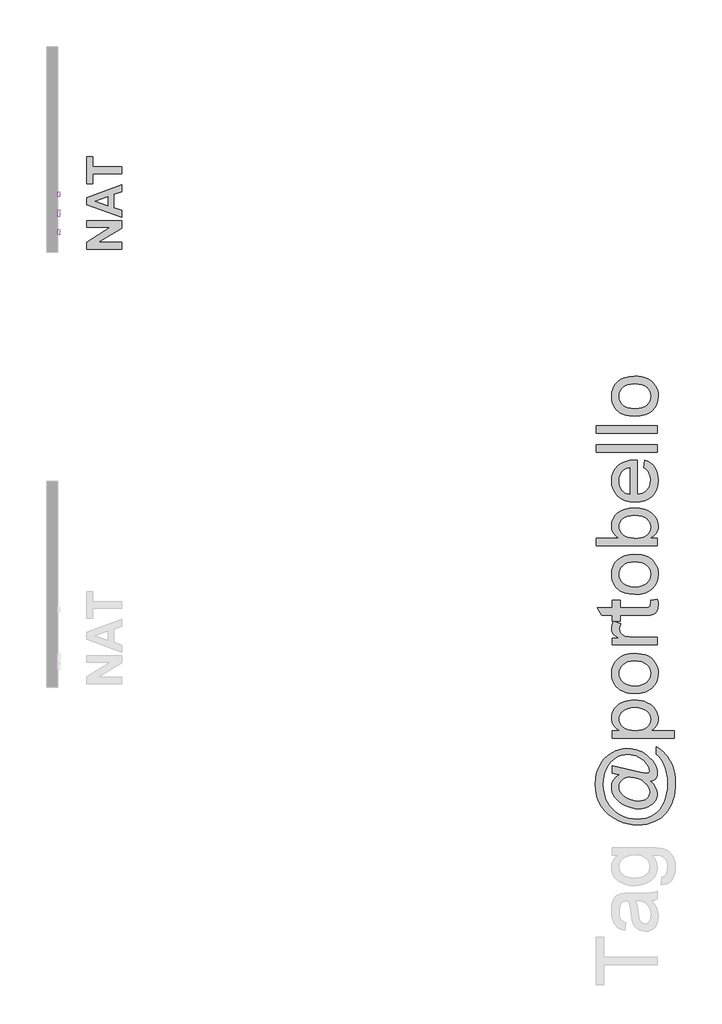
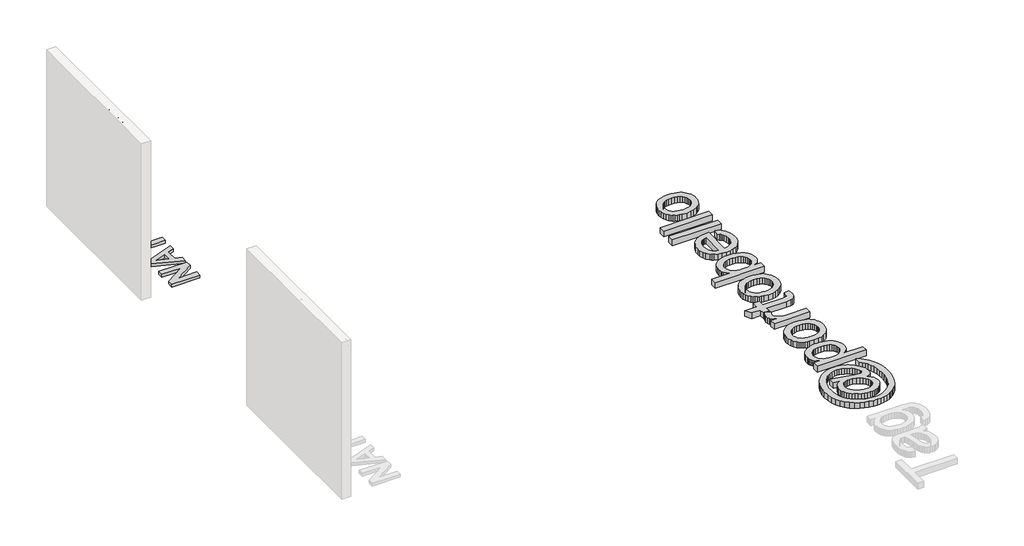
# One storey, part 3 of 9: 5 proxies.
"""IFC4 building model written with IfcOpenShell, lengths in millimetres."""

from ifc_helpers import new_model, si_unit, frame, origin, origin_with_axes, place, context, project, spatial, polyline, outline, extrude, element, save

model = new_model("IFC4")

# Units and contexts
model_context = context("Model", 3, world=origin())
ifc_project = project(units=[si_unit("LENGTHUNIT", "METRE", prefix="MILLI")], contexts=[model_context])

# Site, building, storey
site = spatial("IfcSite", under=ifc_project)
building = spatial("IfcBuilding", under=site)
storey = spatial("IfcBuildingStorey", under=building, Name="PORTOBELLO - SHOWROOM", Elevation=0.0)

# Proxies
placement = place(None, origin())
element("IfcBuildingElementProxy", 1, Name="10mm Arial", ObjectType="10mm Arial", at=placement, inside=storey, context=model_context, shape_type="SweptSolid", body=[
    extrude(outline(polyline([(-1934.9777985, 2518.4745677), (-1934.9777985, 2618.9308778), (-1922.4207597, 2618.9308778), (-1922.4207597, 2531.0316064), (-1872.1926046, 2531.0316064), (-1872.1926046, 2518.4745677), (-1934.9777985, 2518.4745677)])), frame((-13466.0063329, 0.0, 0.0), z_axis=(1.0, 0.0, 0.0), x_axis=(0.0, 1.0, 0.0)), (0.0, 0.0, 1.0), 20.0),
    extrude(outline(polyline([(-13446.0063329, -1847.0785271), (-13446.0063329, -1859.6355659), (-13466.0063329, -1859.6355659), (-13466.0063329, -1847.0785271), (-13446.0063329, -1847.0785271)])), frame((0.0, 0.0, 2518.4745677), z_axis=(0.0, 0.0, 1.0), x_axis=(1.0, 0.0, 0.0)), (0.0, 0.0, 1.0), 73.7726028),
    extrude(outline(polyline([(-13446.0063329, -1847.0785271), (-13446.0063329, -1859.6355659), (-13466.0063329, -1859.6355659), (-13466.0063329, -1847.0785271), (-13446.0063329, -1847.0785271)])), frame((0.0, 0.0, 2606.373839), z_axis=(0.0, 0.0, 1.0), x_axis=(1.0, 0.0, 0.0)), (0.0, 0.0, 1.0), 12.5570388),
    extrude(outline(polyline([(-1828.2429689, 2518.4745677), (-1828.2429689, 2592.2471704), (-1815.6859302, 2592.2471704), (-1815.6859302, 2581.9464746), (-1806.0842101, 2590.8492188), (-1792.9753483, 2593.8168003), (-1781.1172854, 2591.4255673), (-1773.0238815, 2585.1470479), (-1769.2592224, 2575.9132098), (-1768.5970348, 2563.773104), (-1768.5970348, 2518.4745677), (-1781.1540736, 2518.4745677), (-1781.1540736, 2562.0808468), (-1782.6010761, 2573.1908831), (-1787.7146358, 2579.0647323), (-1796.3353372, 2581.2597615), (-1809.9592338, 2576.3301428), (-1814.2542561, 2569.1871007), (-1815.6859302, 2557.6172119), (-1815.6859302, 2518.4745677), (-1828.2429689, 2518.4745677)])), frame((-13466.0063329, 0.0, 0.0), z_axis=(1.0, 0.0, 0.0), x_axis=(0.0, 1.0, 0.0)), (0.0, 0.0, 1.0), 20.0),
    extrude(outline(polyline([(-1699.6804744, 2540.4493855), (-1687.3686903, 2538.8797557), (-1691.804734, 2529.602998), (-1698.8833967, 2522.6684224), (-1708.4452629, 2518.345809), (-1720.330917, 2516.9049378), (-1735.0645909, 2519.391207), (-1746.4014878, 2526.8500144), (-1753.630369, 2538.7969822), (-1756.039996, 2554.7477324), (-1753.6058435, 2571.2349771), (-1746.3033859, 2583.5651553), (-1735.1197732, 2591.253889), (-1721.0421556, 2593.8168003), (-1707.4029306, 2591.2600204), (-1696.5044265, 2583.5896808), (-1689.3583187, 2571.2840281), (-1686.9762828, 2554.8213088), (-1687.0498592, 2551.4367944), (-1743.4829573, 2551.4367944), (-1741.3093878, 2542.0374095), (-1736.2602074, 2535.1273593), (-1728.9730782, 2530.8783223), (-1720.0856624, 2529.4619766), (-1707.7738783, 2532.0862015), (-1699.6804744, 2540.4493855)]), holes=[polyline([(-1743.4829573, 2563.9938332), (-1699.5333216, 2563.9938332), (-1704.5610422, 2575.3736496), (-1711.8818939, 2579.7882335), (-1721.0912065, 2581.2597615), (-1736.554513, 2576.5631347), (-1741.4197524, 2571.0724959), (-1743.4829573, 2563.9938332)])]), frame((-13466.0063329, 0.0, 0.0), z_axis=(1.0, 0.0, 0.0), x_axis=(0.0, 1.0, 0.0)), (0.0, 0.0, 1.0), 20.0),
    extrude(outline(polyline([(-1674.419244, 2518.4745677), (-1674.419244, 2592.2471704), (-1661.8622053, 2592.2471704), (-1661.8622053, 2581.9464746), (-1652.2604852, 2590.8492188), (-1639.1516234, 2593.8168003), (-1627.2935605, 2591.4255673), (-1619.2001566, 2585.1470479), (-1615.4354975, 2575.9132098), (-1614.7733099, 2563.773104), (-1614.7733099, 2518.4745677), (-1627.3303487, 2518.4745677), (-1627.3303487, 2562.0808468), (-1628.7773512, 2573.1908831), (-1633.8909109, 2579.0647323), (-1642.5116123, 2581.2597615), (-1656.1355089, 2576.3301428), (-1660.4305312, 2569.1871007), (-1661.8622053, 2557.6172119), (-1661.8622053, 2518.4745677), (-1674.419244, 2518.4745677)])), frame((-13466.0063329, 0.0, 0.0), z_axis=(1.0, 0.0, 0.0), x_axis=(0.0, 1.0, 0.0)), (0.0, 0.0, 1.0), 20.0),
    extrude(outline(polyline([(-1556.6970056, 2518.4745677), (-1556.6970056, 2618.9308778), (-1535.1636461, 2618.9308778), (-1514.5622544, 2548.1258565), (-1510.3929251, 2533.3370003), (-1505.9047648, 2549.3521298), (-1485.6957805, 2618.9308778), (-1464.0888447, 2618.9308778), (-1464.0888447, 2518.4745677), (-1476.6458834, 2518.4745677), (-1476.6458834, 2606.373839), (-1501.8825883, 2518.4745677), (-1518.8787365, 2518.4745677), (-1544.1399668, 2606.373839), (-1544.1399668, 2518.4745677), (-1556.6970056, 2518.4745677)])), frame((-13466.0063329, 0.0, 0.0), z_axis=(1.0, 0.0, 0.0), x_axis=(0.0, 1.0, 0.0)), (0.0, 0.0, 1.0), 20.0),
    extrude(outline(polyline([(-13446.0063329, -1431.1266179), (-13446.0063329, -1443.6836567), (-13466.0063329, -1443.6836567), (-13466.0063329, -1431.1266179), (-13446.0063329, -1431.1266179)])), frame((0.0, 0.0, 2606.373839), z_axis=(0.0, 0.0, 1.0), x_axis=(1.0, 0.0, 0.0)), (0.0, 0.0, 1.0), 12.5570388),
    extrude(outline(polyline([(-13446.0063329, -1431.1266179), (-13446.0063329, -1443.6836567), (-13466.0063329, -1443.6836567), (-13466.0063329, -1431.1266179), (-13446.0063329, -1431.1266179)])), frame((0.0, 0.0, 2518.4745677), z_axis=(0.0, 0.0, 1.0), x_axis=(1.0, 0.0, 0.0)), (0.0, 0.0, 1.0), 73.7726028),
    extrude(outline(polyline([(-1420.139209, 2518.4745677), (-1393.3083488, 2555.5815982), (-1418.5695791, 2592.2471704), (-1403.5109428, 2592.2471704), (-1391.321786, 2574.5643092), (-1385.6073524, 2566.2501761), (-1380.6532082, 2573.0682557), (-1366.7717942, 2592.2471704), (-1351.6641069, 2592.2471704), (-1378.2006615, 2555.5570728), (-1352.6451256, 2518.4745677), (-1367.7282874, 2518.4745677), (-1383.1302803, 2540.792742), (-1385.9261834, 2544.8884949), (-1405.0315217, 2518.4745677), (-1420.139209, 2518.4745677)])), frame((-13466.0063329, 0.0, 0.0), z_axis=(1.0, 0.0, 0.0), x_axis=(0.0, 1.0, 0.0)), (0.0, 0.0, 1.0), 20.0),
])
element("IfcBuildingElementProxy", 2, Name="10mm Arial", ObjectType="10mm Arial", at=placement, inside=storey, context=model_context, shape_type="SweptSolid", body=[
    extrude(outline(polyline([(-1875.3318643, 2396.0316064), (-1875.3318643, 2383.4745677), (-1941.2563179, 2383.4745677), (-1939.9074172, 2392.1320573), (-1932.2677345, 2405.4616482), (-1916.5346478, 2420.0175125), (-1894.8663983, 2440.9377353), (-1889.4585329, 2455.1625058), (-1894.5720927, 2466.6772122), (-1907.9262091, 2471.373839), (-1921.8444113, 2466.7875768), (-1927.1296493, 2454.1079107), (-1939.686688, 2455.6775406), (-1936.6424645, 2467.8237778), (-1930.0604425, 2476.6958652), (-1920.2839785, 2482.1221247), (-1907.656429, 2483.9308778), (-1894.936909, 2481.9197896), (-1885.1788391, 2475.8865249), (-1878.9708304, 2466.873416), (-1876.9014942, 2455.9227952), (-1879.1333116, 2444.0156813), (-1886.5522652, 2431.7038972), (-1904.5416947, 2414.4992826), (-1918.9871944, 2402.4204904), (-1924.6525772, 2396.0316064), (-1875.3318643, 2396.0316064)])), frame((-13466.0063329, 0.0, 0.0), z_axis=(1.0, 0.0, 0.0), x_axis=(0.0, 1.0, 0.0)), (0.0, 0.0, 1.0), 20.0),
    extrude(outline(polyline([(-1862.7748256, 2432.8933823), (-1859.0837429, 2461.7966444), (-1848.1208594, 2478.4616988), (-1829.8125988, 2483.9308778), (-1815.1463699, 2480.6935163), (-1805.0173523, 2471.3615763), (-1799.1312404, 2456.4991437), (-1796.850372, 2432.8933823), (-1800.5046665, 2404.1127476), (-1811.4307618, 2387.410905), (-1819.6621214, 2383.2814296), (-1829.8125988, 2381.9049378), (-1842.8601469, 2384.2961708), (-1852.7684353, 2391.4698697), (-1860.273228, 2408.4598865), (-1862.7748256, 2432.8933823)]), holes=[polyline([(-1850.2177868, 2432.9179078), (-1848.7462588, 2413.1657104), (-1844.3316749, 2401.7337774), (-1837.7588499, 2396.2799268), (-1829.8125988, 2394.4619766), (-1821.8663477, 2396.2860581), (-1815.2935227, 2401.7583028), (-1810.8789388, 2413.1963672), (-1809.4074108, 2432.9179078), (-1810.8298878, 2452.2255812), (-1815.097319, 2463.746419), (-1821.6578812, 2469.466984), (-1829.9597516, 2471.373839), (-1837.8201636, 2469.6938446), (-1844.1354711, 2464.6538613), (-1848.6972079, 2452.4156536), (-1850.2177868, 2432.9179078)])]), frame((-13466.0063329, 0.0, 0.0), z_axis=(1.0, 0.0, 0.0), x_axis=(0.0, 1.0, 0.0)), (0.0, 0.0, 1.0), 20.0),
    extrude(outline(polyline([(-1790.5718526, 2383.4745677), (-1763.7409925, 2420.5815982), (-1789.0022228, 2457.2471704), (-1773.9435865, 2457.2471704), (-1761.7544297, 2439.5643092), (-1756.039996, 2431.2501761), (-1751.0858518, 2438.0682557), (-1737.2044379, 2457.2471704), (-1722.0967506, 2457.2471704), (-1748.6333052, 2420.5570728), (-1723.0777693, 2383.4745677), (-1738.1609311, 2383.4745677), (-1753.5629239, 2405.792742), (-1756.3588271, 2409.8884949), (-1775.4641654, 2383.4745677), (-1790.5718526, 2383.4745677)])), frame((-13466.0063329, 0.0, 0.0), z_axis=(1.0, 0.0, 0.0), x_axis=(0.0, 1.0, 0.0)), (0.0, 0.0, 1.0), 20.0),
    extrude(outline(polyline([(-1650.8747963, 2396.0316064), (-1650.8747963, 2383.4745677), (-1716.7992499, 2383.4745677), (-1715.4503492, 2392.1320573), (-1707.8106665, 2405.4616482), (-1692.0775798, 2420.0175125), (-1670.4093303, 2440.9377353), (-1665.001465, 2455.1625058), (-1670.1150247, 2466.6772122), (-1683.4691411, 2471.373839), (-1697.3873433, 2466.7875768), (-1702.6725813, 2454.1079107), (-1715.22962, 2455.6775406), (-1712.1853965, 2467.8237778), (-1705.6033745, 2476.6958652), (-1695.8269105, 2482.1221247), (-1683.199361, 2483.9308778), (-1670.479841, 2481.9197896), (-1660.7217711, 2475.8865249), (-1654.5137624, 2466.873416), (-1652.4444262, 2455.9227952), (-1654.6762436, 2444.0156813), (-1662.0951972, 2431.7038972), (-1680.0846268, 2414.4992826), (-1694.5301264, 2402.4204904), (-1700.1955092, 2396.0316064), (-1650.8747963, 2396.0316064)])), frame((-13466.0063329, 0.0, 0.0), z_axis=(1.0, 0.0, 0.0), x_axis=(0.0, 1.0, 0.0)), (0.0, 0.0, 1.0), 20.0),
    extrude(outline(polyline([(-1638.3177576, 2432.8933823), (-1634.6266749, 2461.7966444), (-1623.6637914, 2478.4616988), (-1605.3555308, 2483.9308778), (-1590.6893019, 2480.6935163), (-1580.5602843, 2471.3615763), (-1574.6741724, 2456.4991437), (-1572.393304, 2432.8933823), (-1576.0475985, 2404.1127476), (-1586.9736938, 2387.410905), (-1595.2050534, 2383.2814296), (-1605.3555308, 2381.9049378), (-1618.4030789, 2384.2961708), (-1628.3113673, 2391.4698697), (-1635.81616, 2408.4598865), (-1638.3177576, 2432.8933823)]), holes=[polyline([(-1625.7607188, 2432.9179078), (-1624.2891908, 2413.1657104), (-1619.8746069, 2401.7337774), (-1613.3017819, 2396.2799268), (-1605.3555308, 2394.4619766), (-1597.4092797, 2396.2860581), (-1590.8364547, 2401.7583028), (-1586.4218708, 2413.1963672), (-1584.9503428, 2432.9179078), (-1586.3728199, 2452.2255812), (-1590.640251, 2463.746419), (-1597.2008132, 2469.466984), (-1605.5026836, 2471.373839), (-1613.3630956, 2469.6938446), (-1619.6784032, 2464.6538613), (-1624.2401399, 2452.4156536), (-1625.7607188, 2432.9179078)])]), frame((-13466.0063329, 0.0, 0.0), z_axis=(1.0, 0.0, 0.0), x_axis=(0.0, 1.0, 0.0)), (0.0, 0.0, 1.0), 20.0),
])
element("IfcBuildingElementProxy", 3, Name="10mm Arial Narrow", ObjectType="10mm Arial Narrow", at=placement, inside=storey, context=model_context, shape_type="SweptSolid", body=[
    extrude(outline(polyline([(-1293.0722036, 2518.4745677), (-1293.0722036, 2615.7916181), (-1262.8323036, 2615.7916181), (-1247.0869542, 2613.9767336), (-1236.0014434, 2604.8164719), (-1231.8566396, 2588.3721467), (-1233.5826193, 2576.7041561), (-1238.7605584, 2567.402873), (-1248.1752718, 2561.314426), (-1262.6115744, 2559.2849437), (-1283.6544246, 2559.2849437), (-1283.6544246, 2518.4745677), (-1293.0722036, 2518.4745677)]), holes=[polyline([(-1283.6544246, 2570.2723526), (-1261.4588775, 2570.2723526), (-1246.130461, 2574.6501483), (-1241.2744187, 2587.857112), (-1243.6656517, 2597.6795612), (-1249.441399, 2603.2836303), (-1261.6796067, 2604.8042092), (-1283.6544246, 2604.8042092), (-1283.6544246, 2570.2723526)])]), frame((-13466.0063329, 0.0, 0.0), z_axis=(1.0, 0.0, 0.0), x_axis=(0.0, 1.0, 0.0)), (0.0, 0.0, 1.0), 20.0),
    extrude(outline(polyline([(-1224.0084904, 2553.7912392), (-1222.1200295, 2569.8216971), (-1216.4546468, 2581.3701261), (-1207.895259, 2588.350687), (-1197.324783, 2590.6775406), (-1186.8769344, 2588.350687), (-1178.2930211, 2581.3701261), (-1172.554062, 2570.0056381), (-1170.6410756, 2554.5270032), (-1172.5203395, 2537.9447223), (-1178.1581311, 2526.2123523), (-1186.7083218, 2519.2317914), (-1197.324783, 2516.9049378), (-1207.8186169, 2519.2379228), (-1216.3933331, 2526.2368778), (-1222.1047011, 2537.7914381), (-1224.0084904, 2553.7912392)]), holes=[polyline([(-1214.5907113, 2553.8157647), (-1213.3307155, 2541.6879216), (-1209.550728, 2533.1162711), (-1203.906805, 2528.0211054), (-1197.0550029, 2526.3227169), (-1190.5618857, 2528.0364339), (-1185.0620498, 2533.1775847), (-1181.3096535, 2541.7645636), (-1180.0588547, 2553.8157647), (-1181.3188505, 2565.9068196), (-1185.098838, 2574.4662073), (-1190.742761, 2579.561373), (-1197.5945631, 2581.2597615), (-1204.1336656, 2579.5521759), (-1209.6243044, 2574.4294191), (-1213.3491096, 2565.8608343), (-1214.5907113, 2553.8157647)])]), frame((-13466.0063329, 0.0, 0.0), z_axis=(1.0, 0.0, 0.0), x_axis=(0.0, 1.0, 0.0)), (0.0, 0.0, 1.0), 20.0),
    extrude(outline(polyline([(-1101.5773624, 2526.3227169), (-1100.0077326, 2516.9049378), (-1107.1201178, 2516.9049378), (-1115.1154198, 2518.9528143), (-1119.2847491, 2524.5568833), (-1120.4129206, 2538.7080774), (-1120.4129206, 2579.6901317), (-1128.2610698, 2579.6901317), (-1128.2610698, 2582.8293914), (-1129.8306996, 2578.1205018), (-1137.1392886, 2579.6901317), (-1143.0131378, 2577.4460515), (-1146.7532714, 2571.1797948), (-1148.6662578, 2556.2928368), (-1148.6662578, 2518.4745677), (-1158.0840369, 2518.4745677), (-1158.0840369, 2589.1079107), (-1148.6662578, 2589.1079107), (-1148.6662578, 2579.7391826), (-1142.6329931, 2588.5192995), (-1136.4525756, 2590.6775406), (-1128.2610698, 2589.1079107), (-1120.4129206, 2589.1079107), (-1120.4129206, 2604.8042092), (-1110.9951415, 2612.6523584), (-1110.9951415, 2589.1079107), (-1101.5773624, 2589.1079107), (-1101.5773624, 2579.6901317), (-1110.9951415, 2579.6901317), (-1110.9951415, 2536.5498364), (-1110.1612756, 2528.8243145), (-1105.6976408, 2526.3227169), (-1101.5773624, 2526.3227169)])), frame((-13466.0063329, 0.0, 0.0), z_axis=(1.0, 0.0, 0.0), x_axis=(0.0, 1.0, 0.0)), (0.0, 0.0, 1.0), 20.0),
    extrude(outline(polyline([(-1095.298843, 2553.7912392), (-1093.4103821, 2569.8216971), (-1087.7449994, 2581.3701261), (-1079.1856116, 2588.350687), (-1068.6151356, 2590.6775406), (-1058.167287, 2588.350687), (-1049.5833738, 2581.3701261), (-1043.8444146, 2570.0056381), (-1041.9314283, 2554.5270032), (-1043.8106921, 2537.9447223), (-1049.4484837, 2526.2123523), (-1057.9986744, 2519.2317914), (-1068.6151356, 2516.9049378), (-1079.1089696, 2519.2379228), (-1087.6836857, 2526.2368778), (-1093.3950537, 2537.7914381), (-1095.298843, 2553.7912392)]), holes=[polyline([(-1085.8810639, 2553.8157647), (-1084.6210681, 2541.6879216), (-1080.8410806, 2533.1162711), (-1075.1971577, 2528.0211054), (-1068.3453555, 2526.3227169), (-1061.8522383, 2528.0364339), (-1056.3524025, 2533.1775847), (-1052.6000061, 2541.7645636), (-1051.3492073, 2553.8157647), (-1052.6092032, 2565.9068196), (-1056.3891907, 2574.4662073), (-1062.0331136, 2579.561373), (-1068.8849158, 2581.2597615), (-1075.4240182, 2579.5521759), (-1080.914657, 2574.4294191), (-1084.6394622, 2565.8608343), (-1085.8810639, 2553.8157647)])]), frame((-13466.0063329, 0.0, 0.0), z_axis=(1.0, 0.0, 0.0), x_axis=(0.0, 1.0, 0.0)), (0.0, 0.0, 1.0), 20.0),
    extrude(outline(polyline([(-1019.9566104, 2518.4745677), (-1029.3743895, 2518.4745677), (-1029.3743895, 2615.7916181), (-1019.9566104, 2615.7916181), (-1019.9566104, 2581.5785926), (-1012.807437, 2588.4211977), (-1003.9169554, 2590.6775406), (-991.4702813, 2586.6185759), (-982.5062233, 2574.3190545), (-979.1462344, 2554.3307995), (-981.0132355, 2538.4321659), (-986.6142389, 2526.641548), (-994.7045771, 2519.3390904), (-1004.0395828, 2516.9049378), (-1013.0649544, 2519.4310609), (-1019.9566104, 2526.9358536), (-1019.9566104, 2518.4745677)]), holes=[polyline([(-1019.9566104, 2554.3307995), (-1017.9455222, 2537.6657451), (-1012.255614, 2529.2289847), (-1004.0886337, 2526.3227169), (-998.3466089, 2528.0517623), (-993.2851658, 2533.2388984), (-988.5640135, 2553.938392), (-993.1134875, 2574.6501483), (-998.181062, 2579.6073582), (-1004.2848374, 2581.2597615), (-1010.0605847, 2579.5307161), (-1015.1741445, 2574.34358), (-1019.9566104, 2554.3307995)])]), frame((-13466.0063329, 0.0, 0.0), z_axis=(1.0, 0.0, 0.0), x_axis=(0.0, 1.0, 0.0)), (0.0, 0.0, 1.0), 20.0),
    extrude(outline(polyline([(-928.9180793, 2540.4493855), (-919.5003003, 2538.8797557), (-928.6973501, 2522.4476932), (-945.1784635, 2516.9049378), (-956.3804703, 2519.2379228), (-965.2157695, 2526.2368778), (-970.9547287, 2537.6442853), (-972.867715, 2553.202628), (-970.9455316, 2569.3066623), (-965.1789813, 2581.0758205), (-956.4693751, 2588.2771106), (-945.7180238, 2590.6775406), (-935.3958681, 2588.359884), (-926.9437793, 2581.4069143), (-921.3059877, 2570.0638861), (-919.4267239, 2554.5760541), (-919.5003003, 2551.4367944), (-963.449936, 2551.4367944), (-957.6496632, 2532.6502872), (-951.9199011, 2527.9046095), (-945.0558362, 2526.3227169), (-935.2211242, 2529.854384), (-928.9180793, 2540.4493855)]), holes=[polyline([(-962.8122738, 2560.8545735), (-928.9180793, 2560.8545735), (-933.0383577, 2574.6378856), (-938.6669522, 2579.6042925), (-945.6444474, 2581.2597615), (-957.4411967, 2575.7415316), (-962.8122738, 2560.8545735)])]), frame((-13466.0063329, 0.0, 0.0), z_axis=(1.0, 0.0, 0.0), x_axis=(0.0, 1.0, 0.0)), (0.0, 0.0, 1.0), 20.0),
    extrude(outline(polyline([(-13446.0063329, -897.5254824), (-13446.0063329, -906.9432615), (-13466.0063329, -906.9432615), (-13466.0063329, -897.5254824), (-13446.0063329, -897.5254824)])), frame((0.0, 0.0, 2518.4745677), z_axis=(0.0, 0.0, 1.0), x_axis=(1.0, 0.0, 0.0)), (0.0, 0.0, 1.0), 97.3170505),
    extrude(outline(polyline([(-13446.0063329, -872.4114049), (-13446.0063329, -881.829184), (-13466.0063329, -881.829184), (-13466.0063329, -872.4114049), (-13446.0063329, -872.4114049)])), frame((0.0, 0.0, 2518.4745677), z_axis=(0.0, 0.0, 1.0), x_axis=(1.0, 0.0, 0.0)), (0.0, 0.0, 1.0), 97.3170505),
    extrude(outline(polyline([(-861.423996, 2553.7912392), (-859.535535, 2569.8216971), (-853.8701523, 2581.3701261), (-845.3107646, 2588.350687), (-834.7402886, 2590.6775406), (-824.2924399, 2588.350687), (-815.7085267, 2581.3701261), (-809.9695676, 2570.0056381), (-808.0565812, 2554.5270032), (-809.935845, 2537.9447223), (-815.5736366, 2526.2123523), (-824.1238273, 2519.2317914), (-834.7402886, 2516.9049378), (-845.2341225, 2519.2379228), (-853.8088387, 2526.2368778), (-859.5202066, 2537.7914381), (-861.423996, 2553.7912392)]), holes=[polyline([(-852.0062169, 2553.8157647), (-850.746221, 2541.6879216), (-846.9662335, 2533.1162711), (-841.3223106, 2528.0211054), (-834.4705084, 2526.3227169), (-827.9773912, 2528.0364339), (-822.4775554, 2533.1775847), (-818.725159, 2541.7645636), (-817.4743603, 2553.8157647), (-818.7343561, 2565.9068196), (-822.5143436, 2574.4662073), (-828.1582665, 2579.561373), (-835.0100687, 2581.2597615), (-841.5491712, 2579.5521759), (-847.0398099, 2574.4294191), (-850.7646151, 2565.8608343), (-852.0062169, 2553.8157647)])]), frame((-13466.0063329, 0.0, 0.0), z_axis=(1.0, 0.0, 0.0), x_axis=(0.0, 1.0, 0.0)), (0.0, 0.0, 1.0), 20.0),
])
element("IfcBuildingElementProxy", 4, Name="450mm Arial", ObjectType="450mm Arial", at=placement, inside=storey, context=model_context, shape_type="SweptSolid", body=[
    extrude(outline(polyline([(-12630.352049, -1980.8828362), (-13089.468779, -1980.8828362), (-13089.468779, -1889.2189057), (-12780.4303848, -1696.6677176), (-13089.468779, -1696.6677176), (-13089.468779, -1609.2169119), (-12630.352049, -1609.2169119), (-12630.352049, -1703.7275483), (-12934.8357137, -1893.4320305), (-12630.352049, -1893.4320305), (-12630.352049, -1980.8828362)])), origin_with_axes(), (0.0, 0.0, 1.0), 50.0),
    extrude(outline(polyline([(-12630.352049, -1135.5250476), (-12630.352049, -1227.4167146), (-12732.377989, -1263.3990773), (-12732.377989, -1436.7065334), (-12630.352049, -1472.2334233), (-12630.352049, -1565.491509), (-13089.468779, -1398.1052012), (-13089.468779, -1304.7332472), (-12630.352049, -1135.5250476)]), holes=[polyline([(-12812.5412276, -1291.4106635), (-12980.1552718, -1350.5082783), (-12812.5412276, -1408.8088155), (-12812.5412276, -1291.4106635)])]), origin_with_axes(), (0.0, 0.0, 1.0), 50.0),
    extrude(outline(polyline([(-12630.352049, -989.7737048), (-13009.3055404, -989.7737048), (-13009.3055404, -1120.9499133), (-13089.468779, -1120.9499133), (-13089.468779, -771.1466905), (-13009.3055404, -771.1466905), (-13009.3055404, -902.3228991), (-12630.352049, -902.3228991), (-12630.352049, -989.7737048)])), origin_with_axes(), (0.0, 0.0, 1.0), 50.0),
])
element("IfcBuildingElementProxy", 5, Name="80mm Arial", ObjectType="80mm Arial", at=placement, inside=storey, context=model_context, shape_type="SweptSolid", body=[
    extrude(outline(polyline([(-5700.2950777, -8955.7052888), (-5662.9945003, -8992.9570753), (-5633.8419889, -9034.4536627), (-5615.03313, -9078.1458368), (-5608.7635104, -9121.9843833), (-5610.5565728, -9145.9162776), (-5615.9357601, -9169.5066362), (-5624.9010722, -9192.7554591), (-5637.4525091, -9215.6627463), (-5653.7242456, -9237.3319667), (-5673.8504564, -9256.8665889), (-5697.8311416, -9274.2666129), (-5725.666301, -9289.5320389), (-5756.1605598, -9301.9553999), (-5788.1185431, -9310.8292293), (-5821.5402507, -9316.1535268), (-5856.4256828, -9317.9282927), (-5900.2642293, -9315.1777106), (-5944.1515666, -9306.9259641), (-5988.0876947, -9293.1730534), (-6032.0726136, -9273.9189784), (-6073.3374446, -9250.5725738), (-6109.1133091, -9224.5426745), (-6139.4002069, -9195.8292804), (-6164.1981382, -9164.4323915), (-6183.4949052, -9131.9316105), (-6197.2783102, -9099.9065399), (-6205.5483532, -9068.3571797), (-6208.3050342, -9037.28353), (-6206.7376293, -9014.120091), (-6202.0354145, -8991.4689555), (-6183.2265557, -8947.7035953), (-6169.0467254, -8927.0772786), (-6151.5857128, -8907.9390818), (-6106.8201408, -8874.1270476), (-6195.8145857, -8855.7817015), (-6195.8145857, -8755.8581142), (-5829.2979902, -8838.6073349), (-5744.7923001, -8855.7817015), (-5731.0088951, -8852.9762297), (-5719.3234952, -8844.5598142), (-5711.3461971, -8832.1913429), (-5708.6870977, -8817.5297032), (-5710.6631257, -8801.8556542), (-5716.5912096, -8783.9128323), (-5740.3035452, -8741.22087), (-5762.6680347, -8711.6231423), (-5788.5820558, -8685.2822016), (-5818.0456087, -8662.1980477), (-5851.0586933, -8642.3706806), (-5886.120992, -8626.4465786), (-5921.7321875, -8615.0722201), (-5957.8922796, -8608.247605), (-5994.6012684, -8605.9727332), (-6037.0248812, -8608.9001821), (-6078.0335605, -8617.6825286), (-6117.6273061, -8632.3197729), (-6155.8061182, -8652.8119148), (-6191.4051159, -8679.1162624), (-6223.2594187, -8711.1901239), (-6251.3690265, -8749.0334991), (-6275.7339393, -8792.646388), (-6295.4149339, -8840.3577054), (-6309.4727872, -8890.4963657), (-6317.9074992, -8943.0623691), (-6320.7190699, -8998.0557154), (-6317.1512416, -9060.7885047), (-6306.4477567, -9120.7646129), (-6288.6086153, -9177.9840401), (-6263.6338174, -9232.4467864), (-6231.9990733, -9282.5427548), (-6194.1800935, -9326.6618484), (-6150.176878, -9364.8040674), (-6099.9894268, -9396.9694116), (-6045.758437, -9422.499205), (-5989.6246053, -9440.7347718), (-5931.5879319, -9451.6761119), (-5871.6484168, -9455.3232252), (-5809.9585312, -9451.712705), (-5752.7208074, -9440.8811443), (-5699.9352454, -9422.828543), (-5651.6018452, -9397.5549013), (-5608.5073586, -9365.4444468), (-5571.4385376, -9326.8814071), (-5540.3953821, -9281.8657822), (-5515.3778922, -9230.3975722), (-5496.1238172, -9174.2332463), (-5482.3709065, -9115.1292739), (-5474.11916, -9053.0856549), (-5471.3685779, -8988.1023893), (-5474.1008635, -8919.8562381), (-5482.2977202, -8857.3917983), (-5495.9591482, -8800.7090701), (-5515.0851473, -8749.8080532), (-5538.1144116, -8704.8107249), (-5563.4856349, -8665.8390622), (-5591.1988173, -8632.8930649), (-5621.2539588, -8605.9727332), (-5621.2539588, -8506.049146), (-5591.9428772, -8522.2781905), (-5562.3634462, -8543.447305), (-5532.5156657, -8569.5564894), (-5502.3995356, -8600.6057437), (-5473.7288335, -8635.7168333), (-5448.2173366, -8674.0115235), (-5425.8650449, -8715.4898144), (-5406.6719584, -8760.1517058), (-5391.26016, -8808.7717521), (-5380.2517325, -8862.1245073), (-5373.6466761, -8920.2099715), (-5371.4449906, -8983.0281447), (-5373.3905243, -9041.8759653), (-5379.2271254, -9098.3940246), (-5388.954794, -9152.5823225), (-5402.57353, -9204.4408591), (-5420.0894322, -9253.2621675), (-5441.5085996, -9298.3387808), (-5466.8310322, -9339.6706992), (-5496.0567298, -9377.2579227), (-5528.4233361, -9410.7650143), (-5563.1684946, -9439.8565372), (-5600.2922053, -9464.5324914), (-5639.7944682, -9484.792877), (-5692.342175, -9504.6873314), (-5746.939096, -9518.897656), (-5803.5852311, -9527.4238508), (-5862.2805805, -9530.2659157), (-5928.0384002, -9526.8749541), (-5992.2105185, -9516.7020694), (-6054.7969353, -9499.7472615), (-6115.7976506, -9476.0105304), (-6185.3428573, -9439.5515946), (-6246.2398921, -9396.1399677), (-6298.4887552, -9345.7756499), (-6342.0894464, -9288.458641), (-6376.4564761, -9224.4328952), (-6401.0043545, -9153.9423665), (-6415.7330815, -9076.9870549), (-6420.6426572, -8993.5669605), (-6417.2029048, -8928.1384788), (-6406.8836476, -8866.1253541), (-6389.6848856, -8807.5275863), (-6365.6066188, -8752.3451756), (-6334.7098358, -8701.6881128), (-6297.055525, -8656.6663891), (-6252.6436865, -8617.2800044), (-6201.4743202, -8583.5289588), (-6153.5983338, -8560.560683), (-6103.6487379, -8544.1547718), (-6051.6255324, -8534.311225), (-5997.5287172, -8531.0300428), (-5958.7979591, -8532.7316224), (-5921.1588954, -8537.8363613), (-5884.6115262, -8546.3442596), (-5849.1558515, -8558.2553171), (-5814.7918712, -8573.5695338), (-5781.5195855, -8592.2869099), (-5749.3389941, -8614.4074452), (-5718.2500973, -8639.9311399), (-5670.3497155, -8689.7465611), (-5636.1351571, -8741.8063597), (-5624.1600617, -8768.6779006), (-5615.6064221, -8796.1105358), (-5610.4742383, -8824.1042654), (-5608.7635104, -8852.6590894), (-5611.6421684, -8885.9832154), (-5620.2781425, -8912.1838826), (-5634.2323154, -8931.8465807), (-5653.0655696, -8945.5567994), (-5671.8012422, -8951.6068604), (-5700.2950777, -8955.7052888)]), holes=[polyline([(-5854.8643768, -9218.0047054), (-5822.1501359, -9215.8152176), (-5793.2903694, -9209.2467543), (-5768.2850771, -9198.2993154), (-5747.1342592, -9182.9729009), (-5730.313626, -9164.8166192), (-5718.2988881, -9145.3795786), (-5711.0900453, -9124.6617792), (-5708.6870977, -9102.6632209), (-5712.9318985, -9071.6078677), (-5725.666301, -9038.9424176), (-5746.7439327, -9006.2281768), (-5776.0184212, -8975.0264512), (-5813.8800929, -8947.3376642), (-5860.7192745, -8925.1622391), (-5912.1447925, -8910.5981811), (-5963.7654738, -8905.7434951), (-5996.1930687, -8908.0183668), (-6024.7783869, -8914.842982), (-6049.5214285, -8926.2173405), (-6070.4221935, -8942.1414425), (-6087.0293668, -8961.334529), (-6098.8916335, -8982.5158411), (-6106.0089935, -9005.685379), (-6108.3814469, -9030.8431425), (-6104.2586231, -9064.3624318), (-6091.8901517, -9095.8325069), (-6070.4221935, -9125.8144622), (-6039.0009092, -9154.869392), (-5998.6753013, -9180.6309418), (-5950.4943724, -9200.7327572), (-5900.5325788, -9213.6867184), (-5854.8643768, -9218.0047054)])]), origin_with_axes(), (0.0, 0.0, 1.0), 100.0),
    extrude(outline(polyline([(-5383.935439, -8393.6351103), (-6195.8145857, -8393.6351103), (-6195.8145857, -8293.711523), (-6097.842631, -8293.711523), (-6146.1699324, -8261.1192591), (-6165.1556579, -8243.3594028), (-6180.6894334, -8224.6237302), (-6192.7712587, -8204.3755423), (-6201.401134, -8182.0781403), (-6206.5790591, -8157.731524), (-6208.3050342, -8131.3356936), (-6205.8898889, -8096.4868546), (-6198.644453, -8063.7604161), (-6186.5687265, -8033.1563779), (-6169.6627094, -8004.6747402), (-6148.365519, -7978.9375857), (-6123.1162727, -7956.5669975), (-6093.9149705, -7937.5629754), (-6060.7616123, -7921.9255195), (-6024.7905846, -7909.7156182), (-5987.1362738, -7900.9942602), (-5947.7986799, -7895.7614454), (-5906.777803, -7894.0171738), (-5862.9209599, -7895.9871029), (-5821.3206921, -7901.8968903), (-5781.9769993, -7911.7465359), (-5744.8898818, -7925.5360397), (-5711.0290568, -7943.0763374), (-5681.3642418, -7964.1783645), (-5655.8954368, -7988.842121), (-5634.6226419, -8017.067607), (-5617.8447007, -8047.470383), (-5605.860457, -8078.6660098), (-5598.6699107, -8110.6544873), (-5596.273062, -8143.4358155), (-5597.87706, -8167.0200753), (-5602.689054, -8189.372367), (-5610.7090441, -8210.4926906), (-5621.9370302, -8230.3810462), (-5650.99196, -8265.486037), (-5686.828813, -8293.711523), (-5383.935439, -8293.711523), (-5383.935439, -8393.6351103)]), holes=[polyline([(-5897.6051299, -8293.711523), (-5849.4485964, -8291.0097316), (-5808.0251952, -8282.9043576), (-5773.3349264, -8269.395401), (-5745.3777899, -8250.4828617), (-5723.8610409, -8227.715848), (-5708.4919344, -8202.6434684), (-5699.2704706, -8175.2657229), (-5696.1966493, -8145.5826113), (-5699.3802499, -8115.4725802), (-5708.9310518, -8087.5947288), (-5724.8490549, -8061.9490571), (-5747.1342592, -8038.5355652), (-5776.1038051, -8019.0253384), (-5812.0748328, -8005.0894621), (-5855.0473423, -7996.7279363), (-5905.0213337, -7993.9407611), (-5952.7631453, -7996.660849), (-5994.1133602, -8004.8211126), (-6029.0719785, -8018.4215521), (-6057.6390002, -8037.4621673), (-6079.8388206, -8060.2840706), (-6095.6958352, -8085.2283743), (-6105.2100439, -8112.2950784), (-6108.3814469, -8141.4841829), (-6105.0087818, -8170.5818047), (-6094.8907868, -8197.9595503), (-6078.0274616, -8223.6174196), (-6054.4188065, -8247.5554128), (-6024.3819615, -8267.748711), (-5988.2340671, -8282.1724954), (-5945.9751233, -8290.8267661), (-5897.6051299, -8293.711523)])]), origin_with_axes(), (0.0, 0.0, 1.0), 100.0),
    extrude(outline(polyline([(-5902.2890481, -7806.5840349), (-5978.3173342, -7801.1804522), (-6012.3885695, -7794.4259739), (-6043.8311998, -7784.9697043), (-6072.645225, -7772.8116433), (-6098.830645, -7757.9517909), (-6122.3874599, -7740.3901473), (-6143.3156698, -7720.1267123), (-6171.7485167, -7682.0454819), (-6192.0576931, -7640.0121955), (-6204.2431989, -7594.0268532), (-6208.3050342, -7544.089455), (-6203.3588654, -7488.9619339), (-6188.520359, -7439.1160185), (-6163.7895151, -7394.5517086), (-6129.1663337, -7355.2690044), (-6085.8217942, -7323.2073407), (-6034.9268762, -7300.3061523), (-5976.4815798, -7286.5654393), (-5910.4859048, -7281.9852016), (-5856.9989749, -7284.0100204), (-5809.5377105, -7290.0844768), (-5768.1021116, -7300.2085707), (-5732.6921782, -7314.3823022), (-5702.1064366, -7332.4288046), (-5675.143413, -7354.1712111), (-5651.8031073, -7379.6095218), (-5632.0855195, -7408.7437367), (-5616.4175694, -7440.4394693), (-5605.2261764, -7473.5623332), (-5598.5113406, -7508.1123285), (-5596.273062, -7544.089455), (-5601.2009342, -7600.0220245), (-5615.9845509, -7650.3314527), (-5640.623912, -7695.0177396), (-5675.1190176, -7734.0808851), (-5718.8843778, -7765.8010132), (-5771.334503, -7788.4582475), (-5832.4693931, -7802.052588), (-5902.2890481, -7806.5840349)]), holes=[polyline([(-5902.4842113, -7706.6604476), (-5854.0166364, -7703.7695919), (-5812.0504374, -7695.0970247), (-5776.5856144, -7680.642746), (-5747.6221674, -7660.4067558), (-5725.1235032, -7635.7917901), (-5709.0530288, -7608.2005847), (-5699.4107442, -7577.6331397), (-5696.1966493, -7544.089455), (-5699.4290407, -7510.7165382), (-5709.126215, -7480.2710702), (-5725.2881722, -7452.753051), (-5747.9149122, -7428.1624807), (-5777.1650053, -7407.9264905), (-5813.1970215, -7393.4722119), (-5856.0109609, -7384.7996446), (-5905.6068234, -7381.9087889), (-5952.5374878, -7384.8179412), (-5993.4058934, -7393.5453981), (-6028.2120404, -7408.0911595), (-6056.9559288, -7428.4552256), (-6079.454593, -7453.1372787), (-6095.5250673, -7480.6370013), (-6105.167352, -7510.9543934), (-6108.3814469, -7544.089455), (-6105.1795497, -7577.6331397), (-6095.5738582, -7608.2005847), (-6079.5643723, -7635.7917901), (-6057.1510921, -7660.4067558), (-6028.273029, -7680.642746), (-5992.8691945, -7695.0970247), (-5950.9395886, -7703.7695919), (-5902.4842113, -7706.6604476)])]), origin_with_axes(), (0.0, 0.0, 1.0), 100.0),
    extrude(outline(polyline([(-5608.7635104, -7169.5711659), (-6195.8145857, -7169.5711659), (-6195.8145857, -7082.138027), (-6108.9669366, -7082.138027), (-6159.3190568, -7049.8385081), (-6176.7373774, -7034.6401695), (-6188.9838718, -7020.0761115), (-6203.4747436, -6990.2161333), (-6208.3050342, -6957.6238694), (-6206.377797, -6932.8381359), (-6200.5960855, -6907.857239), (-6190.9598997, -6882.681179), (-6177.4692396, -6857.3099556), (-6087.8893049, -6890.6828725), (-6103.2584114, -6925.8122586), (-6108.3814469, -6960.9416448), (-6103.4535746, -6990.7772276), (-6088.669958, -7017.4414075), (-6065.1527856, -7038.982552), (-6034.0242462, -7053.4490283), (-5978.2075548, -7065.5979411), (-5917.3166188, -7069.6475786), (-5608.7635104, -7069.6475786), (-5608.7635104, -7169.5711659)])), origin_with_axes(), (0.0, 0.0, 1.0), 100.0),
    extrude(outline(polyline([(-5692.0982209, -6582.5200906), (-5605.8360616, -6570.0296422), (-5598.6638119, -6609.5989924), (-5596.273062, -6644.7771694), (-5600.4202812, -6692.7385396), (-5612.8619388, -6728.5022064), (-5632.0367287, -6753.7758481), (-5656.383345, -6770.2671433), (-5698.1970727, -6779.3422347), (-5769.773197, -6782.3672652), (-6095.8909985, -6782.3672652), (-6095.8909985, -6857.3099556), (-6195.8145857, -6857.3099556), (-6195.8145857, -6782.3672652), (-6338.4789262, -6782.3672652), (-6397.2230664, -6682.4436779), (-6195.8145857, -6682.4436779), (-6195.8145857, -6582.5200906), (-6095.8909985, -6582.5200906), (-6095.8909985, -6682.4436779), (-5772.7006458, -6682.4436779), (-5739.8156371, -6681.1263259), (-5721.1775461, -6677.1742699), (-5710.8582889, -6670.2703697), (-5702.9297816, -6660.097485), (-5697.8799324, -6645.6797994), (-5696.1966493, -6626.0414968), (-5692.0982209, -6582.5200906)])), origin_with_axes(), (0.0, 0.0, 1.0), 100.0),
    extrude(outline(polyline([(-5902.2890481, -6507.5774001), (-5978.3173342, -6502.1738174), (-6012.3885695, -6495.4193391), (-6043.8311998, -6485.9630695), (-6072.645225, -6473.8050085), (-6098.830645, -6458.9451561), (-6122.3874599, -6441.3835125), (-6143.3156698, -6421.1200775), (-6171.7485167, -6383.0388471), (-6192.0576931, -6341.0055607), (-6204.2431989, -6295.0202184), (-6208.3050342, -6245.0828202), (-6203.3588654, -6189.9552991), (-6188.520359, -6140.1093836), (-6163.7895151, -6095.5450738), (-6129.1663337, -6056.2623696), (-6085.8217942, -6024.2007059), (-6034.9268762, -6001.2995175), (-5976.4815798, -5987.5588045), (-5910.4859048, -5982.9785668), (-5856.9989749, -5985.0033856), (-5809.5377105, -5991.077842), (-5768.1021116, -6001.2019359), (-5732.6921782, -6015.3756674), (-5702.1064366, -6033.4221697), (-5675.143413, -6055.1645763), (-5651.8031073, -6080.602887), (-5632.0855195, -6109.7371019), (-5616.4175694, -6141.4328345), (-5605.2261764, -6174.5556984), (-5598.5113406, -6209.1056936), (-5596.273062, -6245.0828202), (-5601.2009342, -6301.0153897), (-5615.9845509, -6351.3248179), (-5640.623912, -6396.0111048), (-5675.1190176, -6435.0742503), (-5718.8843778, -6466.7943784), (-5771.334503, -6489.4516127), (-5832.4693931, -6503.0459532), (-5902.2890481, -6507.5774001)]), holes=[polyline([(-5902.4842113, -6407.6538128), (-5854.0166364, -6404.7629571), (-5812.0504374, -6396.0903899), (-5776.5856144, -6381.6361112), (-5747.6221674, -6361.400121), (-5725.1235032, -6336.7851553), (-5709.0530288, -6309.1939499), (-5699.4107442, -6278.6265049), (-5696.1966493, -6245.0828202), (-5699.4290407, -6211.7099034), (-5709.126215, -6181.2644353), (-5725.2881722, -6153.7464162), (-5747.9149122, -6129.1558459), (-5777.1650053, -6108.9198557), (-5813.1970215, -6094.465577), (-5856.0109609, -6085.7930098), (-5905.6068234, -6082.9021541), (-5952.5374878, -6085.8113064), (-5993.4058934, -6094.5387633), (-6028.2120404, -6109.0845247), (-6056.9559288, -6129.4485908), (-6079.454593, -6154.1306439), (-6095.5250673, -6181.6303665), (-6105.167352, -6211.9477586), (-6108.3814469, -6245.0828202), (-6105.1795497, -6278.6265049), (-6095.5738582, -6309.1939499), (-6079.5643723, -6336.7851553), (-6057.1510921, -6361.400121), (-6028.273029, -6381.6361112), (-5992.8691945, -6396.0903899), (-5950.9395886, -6404.7629571), (-5902.4842113, -6407.6538128)])]), origin_with_axes(), (0.0, 0.0, 1.0), 100.0),
    extrude(outline(polyline([(-5608.7635104, -5770.6409438), (-5608.7635104, -5870.5645311), (-6408.1522087, -5870.5645311), (-6408.1522087, -5770.6409438), (-6111.6992222, -5770.6409438), (-6153.9642649, -5737.7803305), (-6184.1535812, -5700.6749164), (-6194.7198419, -5680.530409), (-6202.2671709, -5659.3247014), (-6208.3050342, -5613.7296856), (-6202.8648584, -5562.2553768), (-6186.5443311, -5513.6109351), (-6160.3680593, -5470.5774371), (-6125.3606502, -5435.935959), (-6081.8636394, -5408.783871), (-6030.2185627, -5388.2185428), (-5972.5722158, -5375.2645817), (-5911.0713946, -5370.9465946), (-5840.1051555, -5375.417053), (-5777.6773088, -5388.828428), (-5723.7878547, -5411.1807197), (-5678.4367929, -5442.4739281), (-5642.4901607, -5480.0367561), (-5616.8139947, -5521.1979067), (-5601.4082952, -5565.9573798), (-5596.273062, -5614.3151754), (-5597.9289002, -5638.5306663), (-5602.896415, -5661.4105087), (-5611.1756063, -5682.9547026), (-5622.766474, -5703.1632479), (-5637.6690183, -5722.0361447), (-5655.8832391, -5739.5733929), (-5702.2467102, -5770.6409438), (-5608.7635104, -5770.6409438)]), holes=[polyline([(-5906.3874765, -5770.6409438), (-5861.353555, -5768.9332653), (-5823.052766, -5763.8102298), (-5791.4851092, -5755.2718374), (-5766.6505849, -5743.3180879), (-5735.826988, -5719.1056464), (-5713.8101332, -5690.9655444), (-5700.6000203, -5658.8977818), (-5696.1966493, -5622.9023587), (-5699.4412384, -5593.0179851), (-5709.1750058, -5565.2316164), (-5725.3979515, -5539.5432528), (-5748.1100755, -5515.9528942), (-5777.2503892, -5496.2292076), (-5812.7579042, -5482.14086), (-5854.6326204, -5473.6878515), (-5902.8745378, -5470.8701819), (-5952.0312831, -5473.5719733), (-5994.3085235, -5481.6773473), (-6029.7062591, -5495.1863039), (-6058.22449, -5514.0988432), (-6080.1681586, -5536.8414615), (-6095.8422076, -5561.8406548), (-6105.2466371, -5589.0964234), (-6108.3814469, -5618.6087671), (-6105.1368577, -5648.4931407), (-6095.4030903, -5676.2795093), (-6079.1801446, -5701.967873), (-6056.4680207, -5725.5582316), (-6027.6204518, -5745.2819182), (-5992.9911715, -5759.3702658), (-5952.5801797, -5767.8232743), (-5906.3874765, -5770.6409438)])]), origin_with_axes(), (0.0, 0.0, 1.0), 100.0),
    extrude(outline(polyline([(-5783.6297882, -4847.5187409), (-5771.1393398, -4749.5467862), (-5731.8993275, -4764.5682581), (-5697.318838, -4784.8469402), (-5667.3978713, -4810.3828325), (-5642.1364273, -4841.1759351), (-5622.0712049, -4876.9091075), (-5607.7389033, -4917.2652097), (-5599.1395223, -4962.2442414), (-5596.273062, -5011.8462028), (-5601.2192308, -5073.8471298), (-5616.0577371, -5129.0905291), (-5640.788581, -5177.5764006), (-5675.4117625, -5219.3047444), (-5718.9636629, -5252.8606268), (-5770.4806638, -5276.8291142), (-5829.962765, -5291.2102067), (-5897.4099667, -5296.0039042), (-5967.1442377, -5291.1614159), (-6028.6084658, -5276.633951), (-6081.8026509, -5252.4215095), (-6105.2984773, -5236.6834225), (-6126.726793, -5218.5240914), (-6162.4172735, -5176.9055269), (-6187.9104739, -5129.5296464), (-6203.2063941, -5076.3964499), (-6208.3050342, -5017.5059372), (-6203.2185918, -4960.5121675), (-6187.9592647, -4908.9707713), (-6162.5270528, -4862.8817485), (-6126.9219562, -4822.2450992), (-6082.0953958, -4789.0734444), (-6028.9987923, -4765.3794053), (-5967.6321459, -4751.1629819), (-5897.9954564, -4746.4241741), (-5871.062927, -4747.0096638), (-5871.062927, -5196.0803169), (-5831.1886342, -5190.2925066), (-5796.266609, -5178.7839733), (-5766.2968515, -5161.554717), (-5741.2793615, -5138.6047379), (-5721.5556749, -5111.2025969), (-5707.4673273, -5080.6168553), (-5699.0143188, -5046.8475131), (-5696.1966493, -5009.8945702), (-5701.4172664, -4956.7125829), (-5717.0791177, -4911.9226155), (-5729.0694603, -4892.6746394), (-5744.1580195, -4875.5246682), (-5762.3447955, -4860.472702), (-5783.6297882, -4847.5187409)]), holes=[polyline([(-5970.9865143, -5196.0803169), (-5970.9865143, -4846.3477614), (-5999.2607911, -4851.4829945), (-6023.7781752, -4859.8628169), (-6044.5386666, -4871.4872283), (-6061.5422653, -4886.3562289), (-6082.0344072, -4913.6058986), (-6096.6716515, -4944.612461), (-6105.453998, -4979.375916), (-6108.3814469, -5017.8962638), (-6106.0455866, -5053.0317488), (-6099.038006, -5085.2519826), (-6087.3587048, -5114.5569654), (-6071.0076833, -5140.9466969), (-6050.7411988, -5163.0916277), (-6027.3155092, -5179.6622079), (-6000.7306144, -5190.6584377), (-5970.9865143, -5196.0803169)])]), origin_with_axes(), (0.0, 0.0, 1.0), 100.0),
    extrude(outline(polyline([(-5608.7635104, -4646.5005868), (-6408.1522087, -4646.5005868), (-6408.1522087, -4546.5769995), (-5608.7635104, -4546.5769995), (-5608.7635104, -4646.5005868)])), origin_with_axes(), (0.0, 0.0, 1.0), 100.0),
    extrude(outline(polyline([(-5608.7635104, -4396.6916185), (-6408.1522087, -4396.6916185), (-6408.1522087, -4296.7680312), (-5608.7635104, -4296.7680312), (-5608.7635104, -4396.6916185)])), origin_with_axes(), (0.0, 0.0, 1.0), 100.0),
    extrude(outline(polyline([(-5902.2890481, -4171.8635471), (-5978.3173342, -4166.4599645), (-6012.3885695, -4159.7054861), (-6043.8311998, -4150.2492165), (-6072.645225, -4138.0911555), (-6098.830645, -4123.2313032), (-6122.3874599, -4105.6696595), (-6143.3156698, -4085.4062245), (-6171.7485167, -4047.3249941), (-6192.0576931, -4005.2917078), (-6204.2431989, -3959.3063655), (-6208.3050342, -3909.3689672), (-6203.3588654, -3854.2414461), (-6188.520359, -3804.3955307), (-6163.7895151, -3759.8312208), (-6129.1663337, -3720.5485166), (-6085.8217942, -3688.4868529), (-6034.9268762, -3665.5856645), (-5976.4815798, -3651.8449515), (-5910.4859048, -3647.2647138), (-5856.9989749, -3649.2895326), (-5809.5377105, -3655.363989), (-5768.1021116, -3665.4880829), (-5732.6921782, -3679.6618144), (-5702.1064366, -3697.7083168), (-5675.143413, -3719.4507233), (-5651.8031073, -3744.889034), (-5632.0855195, -3774.0232489), (-5616.4175694, -3805.7189815), (-5605.2261764, -3838.8418454), (-5598.5113406, -3873.3918407), (-5596.273062, -3909.3689672), (-5601.2009342, -3965.3015368), (-5615.9845509, -4015.610965), (-5640.623912, -4060.2972518), (-5675.1190176, -4099.3603974), (-5718.8843778, -4131.0805254), (-5771.334503, -4153.7377597), (-5832.4693931, -4167.3321003), (-5902.2890481, -4171.8635471)]), holes=[polyline([(-5902.4842113, -4071.9399598), (-5854.0166364, -4069.0491041), (-5812.0504374, -4060.3765369), (-5776.5856144, -4045.9222582), (-5747.6221674, -4025.6862681), (-5725.1235032, -4001.0713023), (-5709.0530288, -3973.480097), (-5699.4107442, -3942.9126519), (-5696.1966493, -3909.3689672), (-5699.4290407, -3875.9960504), (-5709.126215, -3845.5505824), (-5725.2881722, -3818.0325632), (-5747.9149122, -3793.4419929), (-5777.1650053, -3773.2060028), (-5813.1970215, -3758.7517241), (-5856.0109609, -3750.0791569), (-5905.6068234, -3747.1883011), (-5952.5374878, -3750.0974534), (-5993.4058934, -3758.8249103), (-6028.2120404, -3773.3706718), (-6056.9559288, -3793.7347378), (-6079.454593, -3818.4167909), (-6095.5250673, -3845.9165135), (-6105.167352, -3876.2339056), (-6108.3814469, -3909.3689672), (-6105.1795497, -3942.9126519), (-6095.5738582, -3973.480097), (-6079.5643723, -4001.0713023), (-6057.1510921, -4025.6862681), (-6028.273029, -4045.9222582), (-5992.8691945, -4060.3765369), (-5950.9395886, -4069.0491041), (-5902.4842113, -4071.9399598)])]), origin_with_axes(), (0.0, 0.0, 1.0), 100.0),
])

save(model, "model.ifc")
